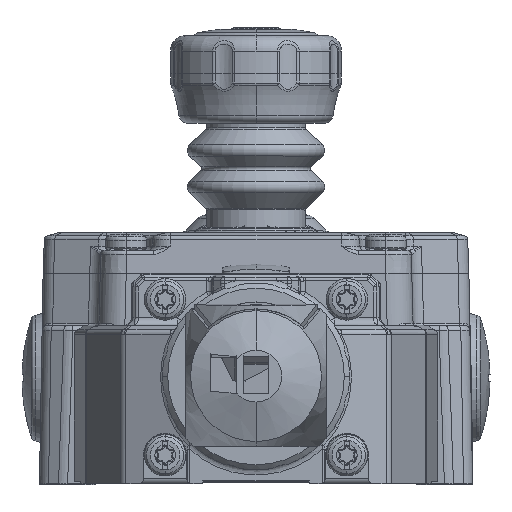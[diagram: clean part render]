
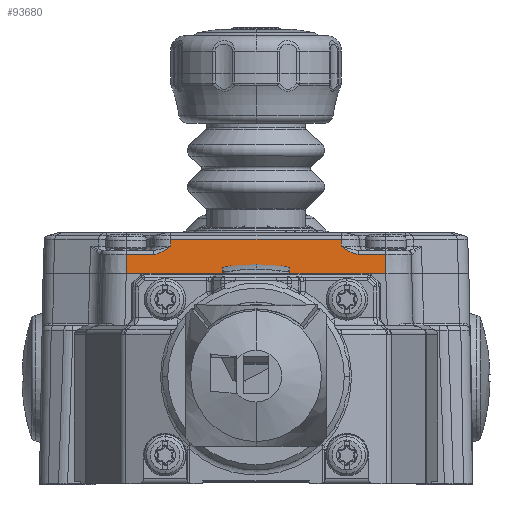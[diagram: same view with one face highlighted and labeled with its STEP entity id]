
A CAD part, top view. The second image highlights one B-rep face of the part: STEP entity #93680.
In plain terms, the highlighted planar face has unit normal (0, 0.035, 0.999).
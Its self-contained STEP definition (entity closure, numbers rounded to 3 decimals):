
#86027=DIRECTION('',(-1.,0.,0.));
#86028=VECTOR('',#86027,32.858);
#86029=CARTESIAN_POINT('',(16.429,26.597,
-0.23));
#86030=LINE('',#86029,#86028);
#86034=CARTESIAN_POINT('',(16.429,26.597,
-0.23));
#86078=CARTESIAN_POINT('',(16.475,25.272,
-0.184));
#87721=DIRECTION('',(0.035,-0.999,0.035));
#87722=VECTOR('',#87721,1.327);
#87723=CARTESIAN_POINT('',(16.429,26.597,
-0.23));
#87724=LINE('',#87723,#87722);
#87728=DIRECTION('',(-1.,0.,0.));
#87729=VECTOR('',#87728,50.);
#87730=CARTESIAN_POINT('',(25.,20.,0.));
#87731=LINE('',#87730,#87729);
#87735=DIRECTION('',(0.031,0.999,-0.035));
#87736=VECTOR('',#87735,1.331);
#87737=CARTESIAN_POINT('',(-16.47,25.268,
-0.184));
#87738=LINE('',#87737,#87736);
#87742=CARTESIAN_POINT('',(19.776,23.728,
-0.13));
#87743=CARTESIAN_POINT('',(19.612,23.723,
-0.13));
#87744=CARTESIAN_POINT('',(19.254,23.756,
-0.131));
#87745=CARTESIAN_POINT('',(18.557,23.953,
-0.138));
#87746=CARTESIAN_POINT('',(17.914,24.258,
-0.149));
#87747=CARTESIAN_POINT('',(17.122,24.777,
-0.167));
#87748=CARTESIAN_POINT('',(16.686,25.102,
-0.178));
#87749=CARTESIAN_POINT('',(16.475,25.272,
-0.184));
#87975=DIRECTION('',(0.,0.999,-0.035));
#87976=VECTOR('',#87975,3.73);
#87977=CARTESIAN_POINT('',(25.,20.,0.));
#87978=LINE('',#87977,#87976);
#88164=DIRECTION('',(-1.,0.,0.));
#88165=VECTOR('',#88164,5.224);
#88166=CARTESIAN_POINT('',(25.,23.728,
-0.13));
#88167=LINE('',#88166,#88165);
#88186=DIRECTION('',(0.,-0.999,0.035));
#88187=VECTOR('',#88186,3.73);
#88188=CARTESIAN_POINT('',(-25.,23.728,
-0.13));
#88189=LINE('',#88188,#88187);
#88373=CARTESIAN_POINT('',(-16.47,25.268,
-0.184));
#88374=CARTESIAN_POINT('',(-16.652,25.127,
-0.179));
#88375=CARTESIAN_POINT('',(-17.024,24.854,
-0.169));
#88376=CARTESIAN_POINT('',(-17.721,24.377,
-0.153));
#88377=CARTESIAN_POINT('',(-18.217,24.111,
-0.144));
#88378=CARTESIAN_POINT('',(-18.791,23.876,
-0.135));
#88379=CARTESIAN_POINT('',(-19.325,23.751,
-0.131));
#88380=CARTESIAN_POINT('',(-19.632,23.725,
-0.13));
#88381=CARTESIAN_POINT('',(-19.776,23.728,
-0.13));
#88401=DIRECTION('',(-1.,0.,0.));
#88402=VECTOR('',#88401,5.224);
#88403=CARTESIAN_POINT('',(-19.776,23.728,
-0.13));
#88404=LINE('',#88403,#88402);
#90865=CARTESIAN_POINT('',(25.,20.,0.));
#90866=CARTESIAN_POINT('',(-25.,20.,0.));
#90867=VERTEX_POINT('',#90865);
#90868=VERTEX_POINT('',#90866);
#90994=VERTEX_POINT('',#86034);
#90995=CARTESIAN_POINT('',(-16.429,26.597,
-0.23));
#90996=VERTEX_POINT('',#90995);
#91001=VERTEX_POINT('',#86078);
#91176=CARTESIAN_POINT('',(-16.47,25.268,
-0.184));
#91177=VERTEX_POINT('',#91176);
#91178=VERTEX_POINT('',#87742);
#91179=CARTESIAN_POINT('',(25.,23.728,
-0.13));
#91180=VERTEX_POINT('',#91179);
#91181=CARTESIAN_POINT('',(-25.,23.728,
-0.13));
#91182=VERTEX_POINT('',#91181);
#91183=CARTESIAN_POINT('',(-19.776,23.728,
-0.13));
#91184=VERTEX_POINT('',#91183);
#93656=CARTESIAN_POINT('',(-32.555,20.,0.));
#93657=DIRECTION('',(0.,0.035,0.999));
#93658=DIRECTION('',(1.,0.,0.));
#93659=AXIS2_PLACEMENT_3D('',#93656,#93657,#93658);
#93660=PLANE('',#93659);
#93661=ORIENTED_EDGE('',*,*,#91497,.F.);
#93662=ORIENTED_EDGE('',*,*,#91565,.T.);
#93664=ORIENTED_EDGE('',*,*,#93663,.F.);
#93666=ORIENTED_EDGE('',*,*,#93665,.F.);
#93668=ORIENTED_EDGE('',*,*,#93667,.F.);
#93670=ORIENTED_EDGE('',*,*,#93669,.T.);
#93672=ORIENTED_EDGE('',*,*,#93671,.F.);
#93674=ORIENTED_EDGE('',*,*,#93673,.F.);
#93676=ORIENTED_EDGE('',*,*,#93675,.F.);
#93677=ORIENTED_EDGE('',*,*,#93506,.T.);
#93678=EDGE_LOOP('',(#93661,#93662,#93664,#93666,#93668,#93670,#93672,#93674,
#93676,#93677));
#93679=FACE_OUTER_BOUND('',#93678,.F.);
#93680=ADVANCED_FACE('',(#93679),#93660,.T.);
#87750=B_SPLINE_CURVE_WITH_KNOTS('',3,(#87742,#87743,#87744,#87745,#87746,
#87747,#87748,#87749),.UNSPECIFIED.,.F.,.F.,(4,1,1,1,1,4),(0.,0.2,0.4,
0.6,0.8,1.),.UNSPECIFIED.);
#88382=B_SPLINE_CURVE_WITH_KNOTS('',3,(#88373,#88374,#88375,#88376,#88377,
#88378,#88379,#88380,#88381),.UNSPECIFIED.,.F.,.F.,(4,1,1,1,1,1,4),(0.,
0.167,0.333,0.5,0.667,0.833,
1.),.UNSPECIFIED.);
#91497=EDGE_CURVE('',#90994,#90996,#86030,.T.);
#91565=EDGE_CURVE('',#90994,#91001,#87724,.T.);
#93506=EDGE_CURVE('',#91177,#90996,#87738,.T.);
#93663=EDGE_CURVE('',#91178,#91001,#87750,.T.);
#93665=EDGE_CURVE('',#91180,#91178,#88167,.T.);
#93667=EDGE_CURVE('',#90867,#91180,#87978,.T.);
#93669=EDGE_CURVE('',#90867,#90868,#87731,.T.);
#93671=EDGE_CURVE('',#91182,#90868,#88189,.T.);
#93673=EDGE_CURVE('',#91184,#91182,#88404,.T.);
#93675=EDGE_CURVE('',#91177,#91184,#88382,.T.);
